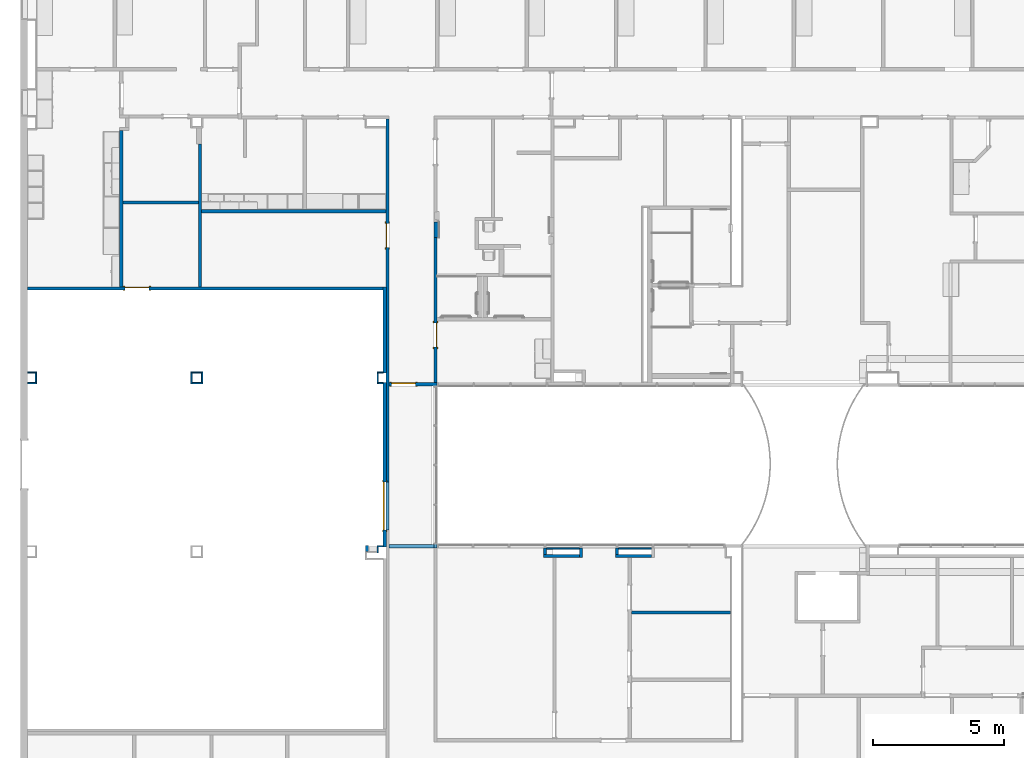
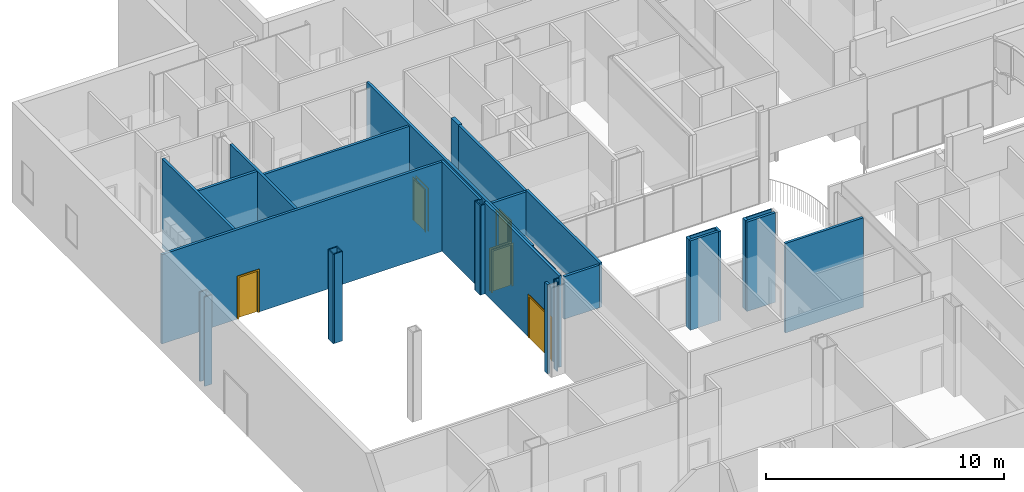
# One storey, part 12 of 45: 35 walls, 5 doors, 6 openings.
"""IFC2X3 building model written with IfcOpenShell, lengths in metres."""

from ifc_helpers import new_model, entity, si_unit, converted_unit, frame, frame_2d, origin, origin_2d_with_axis, place, context, project, spatial, polyline, rectangle, outline, extrude, source, transform, mapped, material, layer, layer_set, layer_usage, type_object, type_shapes, element, fill, save


model = new_model("IFC2X3")

# Units and contexts
model_context = context("Model", 3, precision=1e-09, world=origin())
plan_context = context("Plan", 3, precision=1e-09, world=origin())
ifc_project = project(units=[si_unit("LENGTHUNIT", "METRE"), si_unit("AREAUNIT", "SQUARE_METRE"), si_unit("VOLUMEUNIT", "CUBIC_METRE"), converted_unit("PLANEANGLEUNIT", "DEGREE", entity("IfcRatioMeasure", 0.01745329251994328), si_unit("PLANEANGLEUNIT", "RADIAN"), dimensions=[0, 0, 0, 0, 0, 0, 0]), si_unit("TIMEUNIT", "SECOND")], contexts=[model_context, plan_context])

# Site, building, storey
site_placement = place(None, origin())
site = spatial("IfcSite", under=ifc_project, at=site_placement, Name="Default", CompositionType="ELEMENT")
building_placement = place(site_placement, origin())
building = spatial("IfcBuilding", under=site, at=building_placement, CompositionType="ELEMENT")
storey_placement = place(building_placement, frame((0.0, 0.0, 4.570000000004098)))
storey = spatial("IfcBuildingStorey", under=building, at=storey_placement, Name="Second Floor", CompositionType="ELEMENT", Elevation=4.570000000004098)

# Wall, opening, door
ifc_material_1 = material(Name="Plasterboard")
ifc_layer_1 = layer(ifc_material_1, 0.016)
ifc_material_2 = material(Name="Metal - Stud Layer")
ifc_layer_2 = layer(ifc_material_2, 0.092)
ifc_layer_3 = layer(ifc_material_1, 0.016)
ifc_layer_set_1 = layer_set([ifc_layer_1, ifc_layer_2, ifc_layer_3], Name="Basic Wall:Interior - Partition (92mm Stud)")
ifc_layer_usage_1 = layer_usage(ifc_layer_set_1, "AXIS2", "NEGATIVE", 0.062)
wall_1_placement = place(storey_placement, frame((-33.3820000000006, 44.92043871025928, 0.0), z_axis=(0.0, 0.0, 1.0), x_axis=(0.0, -1.0, 0.0)))
wall_1 = element("IfcWallStandardCase", 1, at=wall_1_placement, inside=storey, material=ifc_layer_usage_1, Name="Basic Wall:Interior - Partition (92mm Stud)", ObjectType="Basic Wall:Interior - Partition (92mm Stud)", context=model_context, shape_type="SweptSolid", body=[
    extrude(rectangle(XDim=13.84656437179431, YDim=0.1239999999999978, at=frame_2d((6.923282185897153, 0.0), x_axis=(-1.0, 0.0))), origin(), (0.0, 0.0, 1.0), 4.679999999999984),
])
opening_1_placement = place(wall_1_placement, frame((4.900999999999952, 0.06199999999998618, 0.0)))
opening_1 = element("IfcOpeningElement", 2, at=opening_1_placement, cuts=wall_1, Name="M_Single-Flush:0915 x 2134mm:0915 x 2134mm:1", ObjectType="Opening", context=model_context, shape_type="SweptSolid", body=[
    extrude(rectangle(XDim=0.9149999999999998, YDim=2.134, at=frame_2d((1.067, 0.4575), x_axis=(0.0, 1.0))), frame((0.0, 0.0, 0.0), z_axis=(0.0, -1.0, 0.0), x_axis=(0.0, 0.0, 1.0)), (0.0, 0.0, 1.0), 0.124),
])
door_style_1 = type_object("IfcDoorStyle", Name="0915 x 2134mm", ConstructionType="NOTDEFINED", OperationType="SINGLE_SWING_RIGHT", ParameterTakesPrecedence=False, Sizeable=False)
shared_shape_1 = source(origin(), model_context, "Body", "SweptSolid", [
    extrude(outline(polyline([(-0.5335, -1.123999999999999), (0.5334999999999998, -1.123999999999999), (0.5334999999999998, 1.086), (0.4574999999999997, 1.086), (0.4574999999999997, -1.048000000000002), (-0.4574999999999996, -1.048000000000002), (-0.4574999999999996, 1.086), (-0.5335, 1.086), (-0.5335, -1.123999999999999)])), frame((0.4575000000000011, 0.1239999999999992, 1.086), z_axis=(0.0, 1.0, 0.0), x_axis=(1.0, 0.0, 0.0)), (0.0, 0.0, 1.0), 0.02499999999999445),
    extrude(outline(polyline([(-1.123999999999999, -0.5334999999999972), (1.085999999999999, -0.5334999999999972), (1.085999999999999, -0.4575000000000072), (-1.048, -0.4575000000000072), (-1.048, 0.4575000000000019), (1.085999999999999, 0.4575000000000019), (1.085999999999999, 0.5335000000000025), (-1.123999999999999, 0.5335000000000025), (-1.123999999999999, -0.5334999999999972)])), frame((0.4575000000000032, -0.02500000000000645, 1.085999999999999), z_axis=(0.0, 1.0, 0.0), x_axis=(0.0, 0.0, -1.0)), (0.0, 0.0, 1.0), 0.02500000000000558),
    extrude(rectangle(XDim=0.051, YDim=0.9149999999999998, at=origin_2d_with_axis()), frame((0.4575000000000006, 0.09849999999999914, 0.0), z_axis=(0.0, 0.0, 1.0), x_axis=(0.0, 1.0, 0.0)), (0.0, 0.0, 1.0), 2.133999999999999),
])
type_shapes(door_style_1, [shared_shape_1])
door_1_placement = place(opening_1_placement, frame((0.0, 0.0, 0.0), z_axis=(0.0, 0.0, 1.0), x_axis=(-1.0, 0.0, 0.0)))
door_1 = element("IfcDoor", 3, at=door_1_placement, inside=storey, type_object=door_style_1, Name="M_Single-Flush:0915 x 2134mm:0915 x 2134mm", ObjectType="0915 x 2134mm", OverallHeight=2.134, OverallWidth=0.9149999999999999, context=model_context, shape_type="MappedRepresentation", body=[
    mapped(shared_shape_1, transform((0.0, 0.0, 0.0), scale=1.0)),
])
fill(opening_1, door_1)

wall_2_placement = place(storey_placement, frame((-31.54800000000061, 34.85836288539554, 0.0), z_axis=(0.0, 0.0, 1.0), x_axis=(0.0, 1.0, 0.0)))
wall_2 = element("IfcWallStandardCase", 4, at=wall_2_placement, inside=storey, material=ifc_layer_usage_1, Name="Basic Wall:Interior - Partition (92mm Stud)", ObjectType="Basic Wall:Interior - Partition (92mm Stud)", context=model_context, shape_type="SweptSolid", body=[
    extrude(rectangle(XDim=5.53701631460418, YDim=0.1239999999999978, at=frame_2d((2.76850815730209, 0.0), x_axis=(-1.0, 0.0))), origin(), (0.0, 0.0, 1.0), 4.577999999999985),
])
opening_2_placement = place(wall_2_placement, frame((2.282075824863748, 0.0619999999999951, 0.0)))
opening_2 = element("IfcOpeningElement", 5, at=opening_2_placement, cuts=wall_2, Name="M_Single-Flush:0915 x 2134mm:0915 x 2134mm:1", ObjectType="Opening", context=model_context, shape_type="SweptSolid", body=[
    extrude(rectangle(XDim=0.9149999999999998, YDim=2.134, at=frame_2d((1.067, 0.4575000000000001), x_axis=(0.0, -1.0))), frame((0.0, 0.0, 0.0), z_axis=(0.0, -1.0, 0.0), x_axis=(0.0, 0.0, 1.0)), (0.0, 0.0, 1.0), 0.124),
])
door_style_2 = type_object("IfcDoorStyle", Name="0915 x 2134mm", ConstructionType="NOTDEFINED", OperationType="SINGLE_SWING_LEFT", ParameterTakesPrecedence=False, Sizeable=False)
shared_shape_2 = source(origin(), model_context, "Body", "SweptSolid", [
    extrude(outline(polyline([(-0.5335, -1.123999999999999), (0.5334999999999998, -1.123999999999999), (0.5334999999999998, 1.086), (0.4574999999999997, 1.086), (0.4574999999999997, -1.048000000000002), (-0.4574999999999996, -1.048000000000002), (-0.4574999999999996, 1.086), (-0.5335, 1.086), (-0.5335, -1.123999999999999)])), frame((0.4575000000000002, 0.1489999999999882, 1.086), z_axis=(0.0, -1.0, 0.0), x_axis=(-1.0, 0.0, 0.0)), (0.0, 0.0, 1.0), 0.02499999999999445),
    extrude(outline(polyline([(-1.123999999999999, -0.5334999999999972), (1.085999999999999, -0.5334999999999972), (1.085999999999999, -0.4575000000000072), (-1.048, -0.4575000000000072), (-1.048, 0.4575000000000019), (1.085999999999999, 0.4575000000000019), (1.085999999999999, 0.5335000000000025), (-1.123999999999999, 0.5335000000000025), (-1.123999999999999, -0.5334999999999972)])), frame((0.4574999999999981, 0.0, 1.085999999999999), z_axis=(0.0, -1.0, 0.0), x_axis=(0.0, 0.0, -1.0)), (0.0, 0.0, 1.0), 0.02500000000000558),
    extrude(rectangle(XDim=0.9149999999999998, YDim=0.051, at=origin_2d_with_axis()), frame((0.4575000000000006, 0.09849999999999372, 0.0)), (0.0, 0.0, 1.0), 2.133999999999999),
])
type_shapes(door_style_2, [shared_shape_2])
door_2_placement = place(opening_2_placement, frame((0.0, 0.0, 0.0), z_axis=(0.0, 0.0, 1.0), x_axis=(-1.0, 0.0, 0.0)))
door_2 = element("IfcDoor", 6, at=door_2_placement, inside=storey, type_object=door_style_2, Name="M_Single-Flush:0915 x 2134mm:0915 x 2134mm", ObjectType="0915 x 2134mm", OverallHeight=2.134, OverallWidth=0.9149999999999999, context=model_context, shape_type="MappedRepresentation", body=[
    mapped(shared_shape_2, transform((0.0, 0.0, 0.0), scale=1.0)),
])
fill(opening_2, door_2)

wall_3_placement = place(storey_placement, frame((-33.55000000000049, 38.4564387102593, 0.0), z_axis=(0.0, 0.0, 1.0), x_axis=(-1.0, 0.0, 0.0)))
wall_3 = element("IfcWallStandardCase", 7, at=wall_3_placement, inside=storey, material=ifc_layer_usage_1, Name="Basic Wall:Interior - Partition (92mm Stud)", ObjectType="Basic Wall:Interior - Partition (92mm Stud)", context=model_context, shape_type="SweptSolid", body=[
    extrude(rectangle(XDim=13.5630000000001, YDim=0.1239999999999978, at=frame_2d((6.781500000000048, 0.0), x_axis=(-1.0, 0.0))), origin(), (0.0, 0.0, 1.0), 4.577999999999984),
])
opening_3_placement = place(wall_3_placement, frame((9.846000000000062, 0.06199999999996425, 0.0)))
opening_3 = element("IfcOpeningElement", 8, at=opening_3_placement, cuts=wall_3, Name="M_Single-Flush:0915 x 2134mm:0915 x 2134mm:1", ObjectType="Opening", context=model_context, shape_type="SweptSolid", body=[
    extrude(rectangle(XDim=0.9149999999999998, YDim=2.134, at=frame_2d((1.067, 0.4574999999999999), x_axis=(0.0, -1.0))), frame((0.0, 0.0, 0.0), z_axis=(0.0, -1.0, 0.0), x_axis=(0.0, 0.0, 1.0)), (0.0, 0.0, 1.0), 0.124),
])
door_3_placement = place(opening_3_placement, frame((0.0, 0.0, 0.0), z_axis=(0.0, 0.0, 1.0), x_axis=(-1.0, 0.0, 0.0)))
door_3 = element("IfcDoor", 9, at=door_3_placement, inside=storey, type_object=door_style_2, Name="M_Single-Flush:0915 x 2134mm:0915 x 2134mm", ObjectType="0915 x 2134mm", OverallHeight=2.134, OverallWidth=0.9149999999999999, context=model_context, shape_type="MappedRepresentation", body=[
    mapped(shared_shape_2, transform((0.0, 0.0, 0.0), scale=1.0)),
])
fill(opening_3, door_3)

# Wall, openings, door
wall_4_placement = place(storey_placement, frame((-31.48600000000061, 34.79636288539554, 0.0), z_axis=(0.0, 0.0, 1.0), x_axis=(-1.0, 0.0, 0.0)))
wall_4 = element("IfcWallStandardCase", 10, at=wall_4_placement, inside=storey, material=ifc_layer_usage_1, Name="Basic Wall:Interior - Partition (92mm Stud)", ObjectType="Basic Wall:Interior - Partition (92mm Stud)", context=model_context, shape_type="SweptSolid", body=[
    extrude(rectangle(XDim=1.834000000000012, YDim=0.1239999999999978, at=frame_2d((0.9170000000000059, 0.0), x_axis=(-1.0, 0.0))), origin(), (0.0, 0.0, 1.0), 4.577999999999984),
])
opening_4_placement = place(wall_4_placement, origin())
element("IfcOpeningElement", 11, at=opening_4_placement, cuts=wall_4, ObjectType="Opening", context=model_context, shape_type="SweptSolid", body=[
    extrude(rectangle(XDim=2.4, YDim=11.19900000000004, at=origin_2d_with_axis()), frame((-5.596500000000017, -0.2143999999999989, 1.199999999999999), z_axis=(0.0, 1.0, 0.0), x_axis=(0.0, 0.0, 1.0)), (0.0, 0.0, 1.0), 0.4288000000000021),
])
opening_5_placement = place(wall_4_placement, frame((1.734000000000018, 0.06199999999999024, 0.0)))
opening_5 = element("IfcOpeningElement", 12, at=opening_5_placement, cuts=wall_4, Name="M_Single-Flush:0915 x 2134mm:0915 x 2134mm:1", ObjectType="Opening", context=model_context, shape_type="SweptSolid", body=[
    extrude(rectangle(XDim=0.9149999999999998, YDim=2.134, at=frame_2d((1.067, 0.4575000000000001), x_axis=(0.0, -1.0))), frame((0.0, 0.0, 0.0), z_axis=(0.0, -1.0, 0.0), x_axis=(0.0, 0.0, 1.0)), (0.0, 0.0, 1.0), 0.124),
])
door_4_placement = place(opening_5_placement, frame((0.0, 0.0, 0.0), z_axis=(0.0, 0.0, 1.0), x_axis=(-1.0, 0.0, 0.0)))
door_4 = element("IfcDoor", 13, at=door_4_placement, inside=storey, type_object=door_style_2, Name="M_Single-Flush:0915 x 2134mm:0915 x 2134mm", ObjectType="0915 x 2134mm", OverallHeight=2.134, OverallWidth=0.9149999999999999, context=model_context, shape_type="MappedRepresentation", body=[
    mapped(shared_shape_2, transform((0.0, 0.0, 0.0), scale=1.0)),
])
fill(opening_5, door_4)

# Wall
wall_5_placement = place(storey_placement, frame((-40.53800000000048, 38.51843871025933, 0.0), z_axis=(0.0, 0.0, 1.0), x_axis=(0.0, 1.0, 0.0)))
element("IfcWallStandardCase", 14, at=wall_5_placement, inside=storey, material=ifc_layer_usage_1, Name="Basic Wall:Interior - Partition (92mm Stud)", ObjectType="Basic Wall:Interior - Partition (92mm Stud)", context=model_context, shape_type="SweptSolid", body=[
    extrude(rectangle(XDim=5.447999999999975, YDim=0.1240000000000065, at=frame_2d((2.723999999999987, 0.0), x_axis=(-1.0, 0.0))), origin(), (0.0, 0.0, 1.0), 4.577999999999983),
])

# Wall, opening, door
wall_6_placement = place(storey_placement, frame((-33.4880000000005, 28.59043871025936, 0.0), z_axis=(0.0, 0.0, 1.0), x_axis=(0.0, 1.0, 0.0)))
wall_6 = element("IfcWallStandardCase", 15, at=wall_6_placement, inside=storey, material=ifc_layer_usage_1, Name="Basic Wall:Interior - Partition (92mm Stud)", ObjectType="Basic Wall:Interior - Partition (92mm Stud)", context=model_context, shape_type="SweptSolid", body=[
    extrude(rectangle(XDim=6.277999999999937, YDim=0.1239999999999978, at=frame_2d((3.138999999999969, 0.0), x_axis=(-1.0, 0.0))), origin(), (0.0, 0.0, 1.0), 4.679999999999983),
])
opening_6_placement = place(wall_6_placement, frame((0.6539999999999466, -0.06199999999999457, 0.0)))
opening_6 = element("IfcOpeningElement", 16, at=opening_6_placement, cuts=wall_6, Name="M_Double-Flush:1830 x 2134mm:1830 x 2134mm:1", ObjectType="Opening", context=model_context, shape_type="SweptSolid", body=[
    extrude(rectangle(XDim=2.133999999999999, YDim=1.829999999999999, at=frame_2d((1.067, 0.9149999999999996), x_axis=(1.0, 0.0))), frame((0.0, 0.0, 0.0), z_axis=(0.0, 1.0, 0.0), x_axis=(0.0, 0.0, 1.0)), (0.0, 0.0, 1.0), 0.124),
])
door_style_3 = type_object("IfcDoorStyle", Name="1830 x 2134mm", ConstructionType="NOTDEFINED", OperationType="DOUBLE_DOOR_SINGLE_SWING", ParameterTakesPrecedence=False, Sizeable=False)
shared_shape_3 = source(origin(), model_context, "Body", "SweptSolid", [
    extrude(rectangle(XDim=0.051, YDim=0.9150000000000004, at=origin_2d_with_axis()), frame((1.3725, 0.09849999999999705, 0.0), z_axis=(0.0, 0.0, 1.0), x_axis=(0.0, -1.0, 0.0)), (0.0, 0.0, 1.0), 2.133999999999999),
    extrude(rectangle(XDim=0.05099999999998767, YDim=0.9149999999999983, at=origin_2d_with_axis()), frame((0.4575000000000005, 0.09850000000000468, 0.0), z_axis=(0.0, 0.0, 1.0), x_axis=(0.0, -1.0, 0.0)), (0.0, 0.0, 1.0), 2.134),
    extrude(outline(polyline([(-1.048, 0.9149999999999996), (1.086, 0.9149999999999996), (1.086, 0.9909999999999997), (-1.124, 0.9909999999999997), (-1.124, -0.9909999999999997), (1.086, -0.9909999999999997), (1.086, -0.9149999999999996), (-1.048, -0.9149999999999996), (-1.048, 0.9149999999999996)])), frame((0.9149999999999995, -0.02499999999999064, 1.086), z_axis=(0.0, 1.0, 0.0), x_axis=(0.0, 0.0, -1.0)), (0.0, 0.0, 1.0), 0.02499999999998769),
    extrude(outline(polyline([(-1.048, 0.9149999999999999), (1.086, 0.9149999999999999), (1.086, 0.991), (-1.124, 0.991), (-1.124, -0.991), (1.086, -0.991), (1.086, -0.9149999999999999), (-1.048, -0.9149999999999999), (-1.048, 0.9149999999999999)])), frame((0.9149999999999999, 0.1239999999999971, 1.086), z_axis=(0.0, 1.0, 0.0), x_axis=(0.0, 0.0, -1.0)), (0.0, 0.0, 1.0), 0.02500000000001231),
])
type_shapes(door_style_3, [shared_shape_3])
door_5_placement = place(opening_6_placement, origin())
door_5 = element("IfcDoor", 17, at=door_5_placement, inside=storey, type_object=door_style_3, Name="M_Double-Flush:1830 x 2134mm:1830 x 2134mm", ObjectType="1830 x 2134mm", OverallHeight=2.133999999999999, OverallWidth=1.83, context=model_context, shape_type="MappedRepresentation", body=[
    mapped(shared_shape_3, transform((0.0, 0.0, 0.0), scale=1.0)),
])
fill(opening_6, door_5)

# Walls
wall_7_placement = place(storey_placement, frame((-31.5480000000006, 34.83380159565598, 2.399999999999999), z_axis=(0.0, 0.0, 1.0), x_axis=(0.0, -1.0, 0.0)))
element("IfcWallStandardCase", 18, at=wall_7_placement, inside=storey, material=ifc_layer_usage_1, Name="Basic Wall:Interior - Partition (92mm Stud)", ObjectType="Basic Wall:Interior - Partition (92mm Stud)", context=model_context, shape_type="SweptSolid", body=[
    extrude(rectangle(XDim=6.175924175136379, YDim=0.1240000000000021, at=frame_2d((3.187400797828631, 0.0), x_axis=(-1.0, 0.0))), origin(), (0.0, 0.0, 1.0), 2.279999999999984),
])
wall_8_placement = place(storey_placement, frame((-33.44400000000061, 41.39643871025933, 0.0), z_axis=(0.0, 0.0, 1.0), x_axis=(-1.0, 0.0, 0.0)))
element("IfcWallStandardCase", 19, at=wall_8_placement, inside=storey, material=ifc_layer_usage_1, Name="Basic Wall:Interior - Partition (92mm Stud)", ObjectType="Basic Wall:Interior - Partition (92mm Stud)", context=model_context, shape_type="SweptSolid", body=[
    extrude(rectangle(XDim=7.031999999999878, YDim=0.1240000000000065, at=frame_2d((3.515999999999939, 0.0), x_axis=(-1.0, 0.0))), origin(), (0.0, 0.0, 1.0), 4.577999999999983),
])
wall_9_placement = place(storey_placement, frame((-43.53800000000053, 38.51843871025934, 0.0), z_axis=(0.0, 0.0, 1.0), x_axis=(0.0, 1.0, 0.0)))
element("IfcWallStandardCase", 20, at=wall_9_placement, inside=storey, material=ifc_layer_usage_1, Name="Basic Wall:Interior - Partition (92mm Stud)", ObjectType="Basic Wall:Interior - Partition (92mm Stud)", context=model_context, shape_type="SweptSolid", body=[
    extrude(rectangle(XDim=5.961999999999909, YDim=0.1240000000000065, at=frame_2d((2.980999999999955, 0.0), x_axis=(-1.0, 0.0))), origin(), (0.0, 0.0, 1.0), 4.577999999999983),
])
wall_10_placement = place(storey_placement, frame((-26.05400000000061, 28.24643871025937, 0.0), z_axis=(0.0, 0.0, 1.0), x_axis=(-1.0, 0.0, 0.0)))
element("IfcWallStandardCase", 21, at=wall_10_placement, inside=storey, material=ifc_layer_usage_1, Name="Basic Wall:Interior - Partition (92mm Stud)", ObjectType="Basic Wall:Interior - Partition (92mm Stud)", context=model_context, shape_type="SweptSolid", body=[
    extrude(rectangle(XDim=1.374249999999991, YDim=0.1239999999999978, at=frame_2d((0.6871249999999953, 0.0), x_axis=(-1.0, 0.0))), origin(), (0.0, 0.0, 1.0), 4.577999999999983),
])
ifc_layer_4 = layer(ifc_material_1, 0.016)
ifc_layer_5 = layer(ifc_material_2, 0.152)
ifc_layer_6 = layer(ifc_material_1, 0.016)
ifc_layer_set_2 = layer_set([ifc_layer_4, ifc_layer_5, ifc_layer_6], Name="Basic Wall:Interior - Plumbing (152mm Stud)")
ifc_layer_usage_2 = layer_usage(ifc_layer_set_2, "AXIS2", "NEGATIVE", 0.092)
wall_11_placement = place(storey_placement, frame((-31.5180000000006, 40.39537919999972, 0.0), z_axis=(0.0, 0.0, 1.0), x_axis=(0.0, 1.0, 0.0)))
element("IfcWallStandardCase", 22, at=wall_11_placement, inside=storey, material=ifc_layer_usage_2, Name="Basic Wall:Interior - Plumbing (152mm Stud)", ObjectType="Basic Wall:Interior - Plumbing (152mm Stud)", context=model_context, shape_type="SweptSolid", body=[
    extrude(rectangle(XDim=0.6000000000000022, YDim=0.1840000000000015, at=frame_2d((0.3000000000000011, 0.0), x_axis=(-1.0, 0.0))), origin(), (0.0, 0.0, 1.0), 4.577999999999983),
])
ifc_layer_7 = layer(ifc_material_2, 0.038)
ifc_layer_8 = layer(ifc_material_1, 0.016)
ifc_layer_set_3 = layer_set([ifc_layer_7, ifc_layer_8], Name="Basic Wall:Interior - Furring (38 mm Stud)")
ifc_layer_usage_3 = layer_usage(ifc_layer_set_3, "AXIS2", "NEGATIVE", 0.027)
wall_12_placement = place(storey_placement, frame((-33.7260000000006, 34.8414387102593, 0.0)))
element("IfcWallStandardCase", 23, at=wall_12_placement, inside=storey, material=ifc_layer_usage_3, Name="Basic Wall:Interior - Furring (38 mm Stud)", ObjectType="Basic Wall:Interior - Furring (38 mm Stud)", context=model_context, shape_type="SweptSolid", body=[
    extrude(rectangle(XDim=0.1760000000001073, YDim=0.05399999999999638, at=frame_2d((0.08800000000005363, 0.0), x_axis=(-1.0, 0.0))), origin(), (0.0, 0.0, 1.0), 4.577999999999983),
])
wall_13_placement = place(storey_placement, frame((-23.30550000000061, 28.24643871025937, 0.0), z_axis=(0.0, 0.0, 1.0), x_axis=(-1.0, 0.0, 0.0)))
element("IfcWallStandardCase", 24, at=wall_13_placement, inside=storey, material=ifc_layer_usage_1, Name="Basic Wall:Interior - Partition (92mm Stud)", ObjectType="Basic Wall:Interior - Partition (92mm Stud)", context=model_context, shape_type="SweptSolid", body=[
    extrude(rectangle(XDim=1.374249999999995, YDim=0.1239999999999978, at=frame_2d((0.6871249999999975, 0.0), x_axis=(-1.0, 0.0))), origin(), (0.0, 0.0, 1.0), 4.577999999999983),
])
wall_14_placement = place(storey_placement, frame((-33.3200000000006, 28.62043871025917, 2.399999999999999)))
element("IfcWallStandardCase", 25, at=wall_14_placement, inside=storey, material=ifc_layer_usage_1, Name="Basic Wall:Interior - Partition (92mm Stud)", ObjectType="Basic Wall:Interior - Partition (92mm Stud)", context=model_context, shape_type="SweptSolid", body=[
    extrude(rectangle(XDim=1.709999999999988, YDim=0.1239999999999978, at=frame_2d((0.854999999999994, 0.0), x_axis=(-1.0, 0.0))), origin(), (0.0, 0.0, 1.0), 2.177999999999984),
])
wall_15_placement = place(storey_placement, frame((-27.3662500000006, 28.30843871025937, 0.0), z_axis=(0.0, 0.0, 1.0), x_axis=(0.0, 1.0, 0.0)))
element("IfcWallStandardCase", 26, at=wall_15_placement, inside=storey, material=ifc_layer_usage_1, Name="Basic Wall:Interior - Partition (92mm Stud)", ObjectType="Basic Wall:Interior - Partition (92mm Stud)", context=model_context, shape_type="SweptSolid", body=[
    extrude(rectangle(XDim=0.2447596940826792, YDim=0.1239999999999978, at=frame_2d((0.1223798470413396, 0.0), x_axis=(-1.0, 0.0))), origin(), (0.0, 0.0, 1.0), 4.577999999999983),
])
for number, where, z_axis, x_axis, name in (
    (27, (-33.5500000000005, 35.2474387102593, 0.0), (0.0, 0.0, 1.0), (-1.0, 0.0, 0.0), "Basic Wall:Interior - Furring (38 mm Stud)"),
    (28, (-33.5500000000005, 28.61743871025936, 0.0), (0.0, 0.0, 1.0), (-1.0, 0.0, 0.0), "Basic Wall:Interior - Furring (38 mm Stud)"),
):
    element("IfcWallStandardCase", number, at=place(storey_placement, frame(where, z_axis=z_axis, x_axis=x_axis)), inside=storey, material=ifc_layer_usage_3, Name=name, ObjectType="Basic Wall:Interior - Furring (38 mm Stud)", context=model_context, shape_type="SweptSolid", body=[
        extrude(rectangle(XDim=0.230000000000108, YDim=0.05399999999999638, at=frame_2d((0.115000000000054, 0.0), x_axis=(-1.0, 0.0))), origin(), (0.0, 0.0, 1.0), 4.577999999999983),
    ])
wall_16_placement = place(storey_placement, frame((-40.60000000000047, 41.73643871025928, 0.0), z_axis=(0.0, 0.0, 1.0), x_axis=(-1.0, 0.0, 0.0)))
element("IfcWallStandardCase", 29, at=wall_16_placement, inside=storey, material=ifc_layer_usage_1, Name="Basic Wall:Interior - Partition (92mm Stud)", ObjectType="Basic Wall:Interior - Partition (92mm Stud)", context=model_context, shape_type="SweptSolid", body=[
    extrude(rectangle(XDim=2.876000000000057, YDim=0.1240000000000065, at=frame_2d((1.438000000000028, 0.0), x_axis=(-1.0, 0.0))), origin(), (0.0, 0.0, 1.0), 4.577999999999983),
])
wall_17_placement = place(storey_placement, frame((-25.99200000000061, 28.55319840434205, 0.0), z_axis=(0.0, 0.0, 1.0), x_axis=(0.0, -1.0, 0.0)))
element("IfcWallStandardCase", 30, at=wall_17_placement, inside=storey, material=ifc_layer_usage_1, Name="Basic Wall:Interior - Partition (92mm Stud)", ObjectType="Basic Wall:Interior - Partition (92mm Stud)", context=model_context, shape_type="SweptSolid", body=[
    extrude(rectangle(XDim=0.3687596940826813, YDim=0.1239999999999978, at=frame_2d((0.1843798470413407, 0.0), x_axis=(-1.0, 0.0))), origin(), (0.0, 0.0, 1.0), 4.577999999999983),
])
wall_18_placement = place(storey_placement, frame((-20.29000000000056, 26.08643871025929, 0.0), z_axis=(0.0, 0.0, 1.0), x_axis=(-1.0, 0.0, 0.0)))
element("IfcWallStandardCase", 31, at=wall_18_placement, inside=storey, material=ifc_layer_usage_1, Name="Basic Wall:Interior - Partition (92mm Stud)", ObjectType="Basic Wall:Interior - Partition (92mm Stud)", context=model_context, shape_type="SweptSolid", body=[
    extrude(rectangle(XDim=3.781000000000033, YDim=0.1239999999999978, at=frame_2d((1.890500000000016, 0.0), x_axis=(-1.0, 0.0))), origin(), (0.0, 0.0, 1.0), 4.577999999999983),
])
wall_19_placement = place(storey_placement, frame((-33.75300000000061, 28.59043871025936, 0.0), z_axis=(0.0, 0.0, 1.0), x_axis=(0.0, -1.0, 0.0)))
element("IfcWallStandardCase", 32, at=wall_19_placement, inside=storey, material=ifc_layer_usage_3, Name="Basic Wall:Interior - Furring (38 mm Stud)", ObjectType="Basic Wall:Interior - Furring (38 mm Stud)", context=model_context, shape_type="SweptSolid", body=[
    extrude(rectangle(XDim=0.2300000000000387, YDim=0.05399999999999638, at=frame_2d((0.1150000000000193, 0.0), x_axis=(-1.0, 0.0))), origin(), (0.0, 0.0, 1.0), 4.577999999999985),
])
wall_20_placement = place(storey_placement, frame((-26.05400000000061, 28.52619840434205, 0.0), z_axis=(0.0, 0.0, 1.0), x_axis=(-1.0, 0.0, 0.0)))
element("IfcWallStandardCase", 33, at=wall_20_placement, inside=storey, material=ifc_layer_usage_3, Name="Basic Wall:Interior - Furring (38 mm Stud)", ObjectType="Basic Wall:Interior - Furring (38 mm Stud)", context=model_context, shape_type="SweptSolid", body=[
    extrude(rectangle(XDim=1.250249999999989, YDim=0.05399999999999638, at=frame_2d((0.6251249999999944, 0.0), x_axis=(-1.0, 0.0))), origin(), (0.0, 0.0, 1.0), 4.577999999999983),
])
wall_21_placement = place(storey_placement, frame((-33.4880000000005, 35.22043871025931, 0.0), z_axis=(0.0, 0.0, 1.0), x_axis=(0.0, 1.0, 0.0)))
element("IfcWallStandardCase", 34, at=wall_21_placement, inside=storey, material=ifc_layer_usage_1, Name="Basic Wall:Interior - Partition (92mm Stud)", ObjectType="Basic Wall:Interior - Partition (92mm Stud)", context=model_context, shape_type="SweptSolid", body=[
    extrude(rectangle(XDim=3.298, YDim=0.1239999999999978, at=frame_2d((1.649, 0.0), x_axis=(-1.0, 0.0))), origin(), (0.0, 0.0, 1.0), 4.577999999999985),
])
wall_22_placement = place(storey_placement, frame((-34.15800000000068, 28.41443871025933, 0.0), z_axis=(0.0, 0.0, 1.0), x_axis=(0.0, 1.0, 0.0)))
element("IfcWallStandardCase", 35, at=wall_22_placement, inside=storey, material=ifc_layer_usage_1, Name="Basic Wall:Interior - Partition (92mm Stud)", ObjectType="Basic Wall:Interior - Partition (92mm Stud)", context=model_context, shape_type="SweptSolid", body=[
    extrude(rectangle(XDim=0.2299999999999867, YDim=0.1239999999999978, at=frame_2d((0.1149999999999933, 0.0), x_axis=(-1.0, 0.0))), origin(), (0.0, 0.0, 1.0), 4.577999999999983),
])
wall_23_placement = place(storey_placement, frame((-24.6177500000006, 28.30843871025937, 0.0), z_axis=(0.0, 0.0, 1.0), x_axis=(0.0, 1.0, 0.0)))
element("IfcWallStandardCase", 36, at=wall_23_placement, inside=storey, material=ifc_layer_usage_1, Name="Basic Wall:Interior - Partition (92mm Stud)", ObjectType="Basic Wall:Interior - Partition (92mm Stud)", context=model_context, shape_type="SweptSolid", body=[
    extrude(rectangle(XDim=0.2447596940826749, YDim=0.1239999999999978, at=frame_2d((0.1223798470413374, 0.0), x_axis=(-1.0, 0.0))), origin(), (0.0, 0.0, 1.0), 4.577999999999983),
])
ifc_layer_usage_4 = layer_usage(ifc_layer_set_3, "AXIS2", "POSITIVE", -0.027)
wall_24_placement = place(storey_placement, frame((-40.45700000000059, 35.2744387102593, 0.0), z_axis=(0.0, 0.0, 1.0), x_axis=(0.0, -1.0, 0.0)))
element("IfcWallStandardCase", 37, at=wall_24_placement, inside=storey, material=ifc_layer_usage_4, Name="Basic Wall:Interior - Furring (38 mm Stud)", ObjectType="Basic Wall:Interior - Furring (38 mm Stud)", context=model_context, shape_type="SweptSolid", body=[
    extrude(rectangle(XDim=0.4059999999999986, YDim=0.05400000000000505, at=frame_2d((0.2029999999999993, 0.0), x_axis=(-1.0, 0.0))), origin(), (0.0, 0.0, 1.0), 4.577999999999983),
])
wall_25_placement = place(storey_placement, frame((-40.8900000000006, 35.2474387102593, 0.0)))
element("IfcWallStandardCase", 38, at=wall_25_placement, inside=storey, material=ifc_layer_usage_4, Name="Basic Wall:Interior - Furring (38 mm Stud)", ObjectType="Basic Wall:Interior - Furring (38 mm Stud)", context=model_context, shape_type="SweptSolid", body=[
    extrude(rectangle(XDim=0.4060000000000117, YDim=0.05399999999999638, at=frame_2d((0.2030000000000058, 0.0), x_axis=(-1.0, 0.0))), origin(), (0.0, 0.0, 1.0), 4.577999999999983),
])
wall_26_placement = place(storey_placement, frame((-33.7530000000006, 35.22043871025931, 0.0), z_axis=(0.0, 0.0, 1.0), x_axis=(0.0, -1.0, 0.0)))
element("IfcWallStandardCase", 39, at=wall_26_placement, inside=storey, material=ifc_layer_usage_3, Name="Basic Wall:Interior - Furring (38 mm Stud)", ObjectType="Basic Wall:Interior - Furring (38 mm Stud)", context=model_context, shape_type="SweptSolid", body=[
    extrude(rectangle(XDim=0.4060000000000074, YDim=0.05399999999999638, at=frame_2d((0.2030000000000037, 0.0), x_axis=(-1.0, 0.0))), origin(), (0.0, 0.0, 1.0), 4.577999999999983),
])
wall_27_placement = place(storey_placement, frame((-47.1130000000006, 34.8414387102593, 0.0)))
element("IfcWallStandardCase", 40, at=wall_27_placement, inside=storey, material=ifc_layer_usage_3, Name="Basic Wall:Interior - Furring (38 mm Stud)", ObjectType="Basic Wall:Interior - Furring (38 mm Stud)", context=model_context, shape_type="SweptSolid", body=[
    extrude(rectangle(XDim=0.3430000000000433, YDim=0.05399999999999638, at=frame_2d((0.1715000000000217, 0.0), x_axis=(-1.0, 0.0))), origin(), (0.0, 0.0, 1.0), 4.577999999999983),
])
wall_28_placement = place(storey_placement, frame((-40.8630000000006, 34.81443871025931, 0.0), z_axis=(0.0, 0.0, 1.0), x_axis=(0.0, 1.0, 0.0)))
element("IfcWallStandardCase", 41, at=wall_28_placement, inside=storey, material=ifc_layer_usage_4, Name="Basic Wall:Interior - Furring (38 mm Stud)", ObjectType="Basic Wall:Interior - Furring (38 mm Stud)", context=model_context, shape_type="SweptSolid", body=[
    extrude(rectangle(XDim=0.4059999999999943, YDim=0.05400000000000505, at=frame_2d((0.2029999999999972, 0.0), x_axis=(-1.0, 0.0))), origin(), (0.0, 0.0, 1.0), 4.577999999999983),
])
wall_29_placement = place(storey_placement, frame((-46.79700000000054, 34.8684387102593, 0.0), z_axis=(0.0, 0.0, 1.0), x_axis=(0.0, 1.0, 0.0)))
element("IfcWallStandardCase", 42, at=wall_29_placement, inside=storey, material=ifc_layer_usage_3, Name="Basic Wall:Interior - Furring (38 mm Stud)", ObjectType="Basic Wall:Interior - Furring (38 mm Stud)", context=model_context, shape_type="SweptSolid", body=[
    extrude(rectangle(XDim=0.4060000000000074, YDim=0.05400000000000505, at=frame_2d((0.2030000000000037, 0.0), x_axis=(-1.0, 0.0))), origin(), (0.0, 0.0, 1.0), 4.577999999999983),
])
wall_30_placement = place(storey_placement, frame((-46.82400000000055, 35.2474387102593, 0.0), z_axis=(0.0, 0.0, 1.0), x_axis=(-1.0, 0.0, 0.0)))
element("IfcWallStandardCase", 43, at=wall_30_placement, inside=storey, material=ifc_layer_usage_3, Name="Basic Wall:Interior - Furring (38 mm Stud)", ObjectType="Basic Wall:Interior - Furring (38 mm Stud)", context=model_context, shape_type="SweptSolid", body=[
    extrude(rectangle(XDim=0.2890000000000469, YDim=0.05399999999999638, at=frame_2d((0.1445000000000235, 0.0), x_axis=(-1.0, 0.0))), origin(), (0.0, 0.0, 1.0), 4.577999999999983),
])
wall_31_placement = place(storey_placement, frame((-40.4300000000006, 34.8414387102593, 0.0), z_axis=(0.0, 0.0, 1.0), x_axis=(-1.0, 0.0, 0.0)))
element("IfcWallStandardCase", 44, at=wall_31_placement, inside=storey, material=ifc_layer_usage_4, Name="Basic Wall:Interior - Furring (38 mm Stud)", ObjectType="Basic Wall:Interior - Furring (38 mm Stud)", context=model_context, shape_type="SweptSolid", body=[
    extrude(rectangle(XDim=0.406000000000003, YDim=0.05399999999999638, at=frame_2d((0.2030000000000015, 0.0), x_axis=(-1.0, 0.0))), origin(), (0.0, 0.0, 1.0), 4.577999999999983),
])
wall_32_placement = place(storey_placement, frame((-33.38200000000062, 31.07387433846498, 2.399999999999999), z_axis=(0.0, 0.0, 1.0), x_axis=(0.0, -1.0, 0.0)))
element("IfcWallStandardCase", 45, at=wall_32_placement, inside=storey, material=ifc_layer_usage_1, Name="Basic Wall:Interior - Partition (92mm Stud)", ObjectType="Basic Wall:Interior - Partition (92mm Stud)", context=model_context, shape_type="SweptSolid", body=[
    extrude(rectangle(XDim=1.83, YDim=0.1239999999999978, at=frame_2d((0.9149999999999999, 0.0), x_axis=(-1.0, 0.0))), origin(), (0.0, 0.0, 1.0), 2.177999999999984),
])
wall_33_placement = place(storey_placement, frame((-23.30550000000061, 28.52619840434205, 0.0), z_axis=(0.0, 0.0, 1.0), x_axis=(-1.0, 0.0, 0.0)))
element("IfcWallStandardCase", 46, at=wall_33_placement, inside=storey, material=ifc_layer_usage_3, Name="Basic Wall:Interior - Furring (38 mm Stud)", ObjectType="Basic Wall:Interior - Furring (38 mm Stud)", context=model_context, shape_type="SweptSolid", body=[
    extrude(rectangle(XDim=1.250249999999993, YDim=0.05399999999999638, at=frame_2d((0.6251249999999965, 0.0), x_axis=(-1.0, 0.0))), origin(), (0.0, 0.0, 1.0), 4.577999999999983),
])

save(model, "model.ifc")
